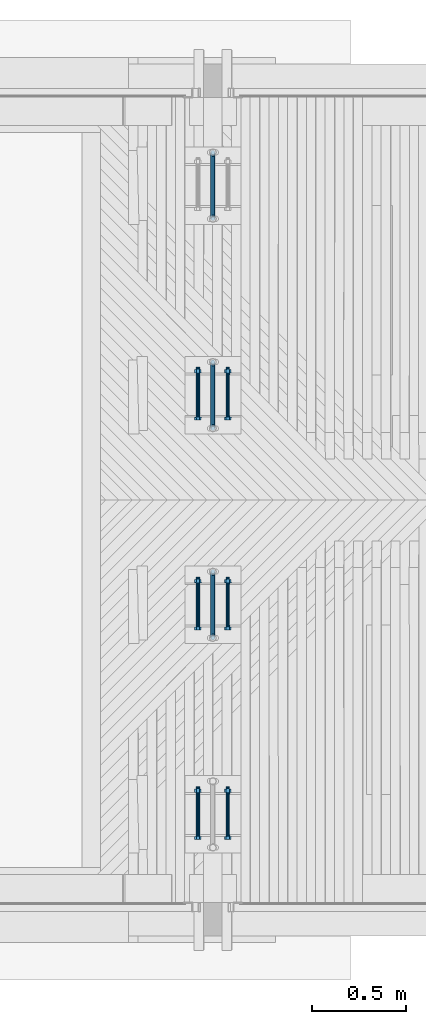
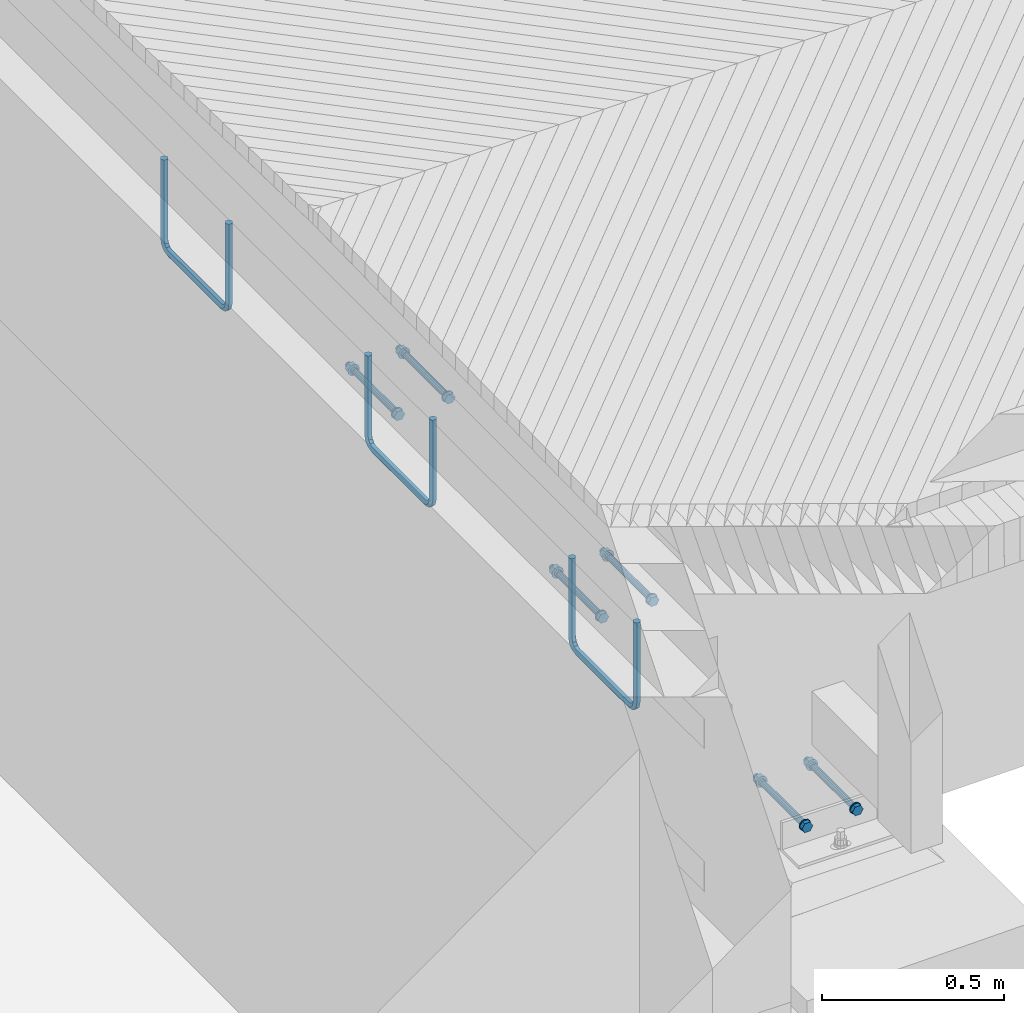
# One storey, part 2 of 65: 6 reinforcing bars, 3 mechanical fasteners.
"""IFC2X3 building model written with IfcOpenShell, lengths in millimetres."""

import ifcopenshell
import ifcopenshell.guid

model = None  # the IFC model being written
_history = None  # IfcOwnerHistory: only IFC2X3 demands one
_inside = {}  # id of a spatial element -> (the spatial element, [elements in it])
_under = {}  # id of a project, library or spatial element -> (it, [spatial elements below it])
_declared = {}  # id of a project -> (the project, [libraries it declares])
_typed = {}  # id of a type object -> (the type object, [elements of that type])
_made_of = {}  # id of a material, layer set ... -> (it, [elements and type objects made of it])


def new_model(schema):
    """Start an empty IFC model of exactly this schema.

    Asked for "IFC4X3", IfcOpenShell would pick the latest addendum, in which some entities
    have other attributes; the version numbers below select the first issue.
    IFC2X3 requires an IfcOwnerHistory on every rooted entity: one is made here for all.
    """
    global model, _history
    if schema == "IFC4X3":
        model = ifcopenshell.file(schema_version=(4, 3, 0, 0))
    else:
        model = ifcopenshell.file(schema=schema)
    _inside.clear()
    _under.clear()
    _declared.clear()
    _typed.clear()
    _made_of.clear()
    _history = None
    if model.schema == "IFC2X3":
        org = make("IfcOrganization", Name="unknown")
        user = make(
            "IfcPersonAndOrganization",
            ThePerson=make("IfcPerson", FamilyName="unknown"),
            TheOrganization=org,
        )
        app = make(
            "IfcApplication",
            ApplicationDeveloper=org,
            Version="unknown",
            ApplicationFullName="unknown",
            ApplicationIdentifier="unknown",
        )
        _history = make(
            "IfcOwnerHistory",
            OwningUser=user,
            OwningApplication=app,
            ChangeAction="ADDED",
            CreationDate=0,
        )
    return model


def make(cls, **values):
    """One entity of the class cls with the attributes given. An attribute that is None is left unset."""
    return model.create_entity(
        cls, **{name: value for name, value in values.items() if value is not None}
    )


def rooted(cls, **values):
    """An entity with a GlobalId (a new one), such as an element, a storey or a relation."""
    return make(cls, GlobalId=ifcopenshell.guid.new(), OwnerHistory=_history, **values)


def si_unit(unit_type, name, prefix=None):
    """IfcSIUnit, for example si_unit("LENGTHUNIT", "METRE", prefix="MILLI")."""
    return make("IfcSIUnit", UnitType=unit_type, Prefix=prefix, Name=name)


def assignment(units):
    """IfcUnitAssignment: the units of a project."""
    return None if units is None else make("IfcUnitAssignment", Units=units)


def point(xyz):
    """IfcCartesianPoint."""
    return None if xyz is None else make("IfcCartesianPoint", Coordinates=xyz)


def direction(xyz):
    """IfcDirection."""
    return None if xyz is None else make("IfcDirection", DirectionRatios=xyz)


def frame(location, z_axis=None, x_axis=None):
    """IfcAxis2Placement3D, a coordinate frame: its origin and axes. An axis left out is left unset."""
    return make(
        "IfcAxis2Placement3D",
        Location=point(location),
        Axis=direction(z_axis),
        RefDirection=direction(x_axis),
    )


def origin_with_axes():
    """The frame at (0, 0, 0) with the z axis (0, 0, 1) and the x axis (1, 0, 0) written out."""
    return frame((0.0, 0.0, 0.0), z_axis=(0.0, 0.0, 1.0), x_axis=(1.0, 0.0, 0.0))


def place(relative_to, where):
    """IfcLocalPlacement: puts the frame where relative to a parent placement (None: the world)."""
    return make(
        "IfcLocalPlacement", PlacementRelTo=relative_to, RelativePlacement=where
    )


def context(
    kind, dimensions, precision=None, world=None, true_north=None, identifier=None
):
    """IfcGeometricRepresentationContext, for example the 3D "Model" context."""
    return make(
        "IfcGeometricRepresentationContext",
        ContextIdentifier=identifier,
        ContextType=kind,
        CoordinateSpaceDimension=dimensions,
        Precision=precision,
        WorldCoordinateSystem=world,
        TrueNorth=true_north,
    )


def subcontext(parent, identifier, kind, view, scale=None):
    """IfcGeometricRepresentationSubContext, for example "Body" below "Model"."""
    return make(
        "IfcGeometricRepresentationSubContext",
        ContextIdentifier=identifier,
        ContextType=kind,
        ParentContext=parent,
        TargetScale=scale,
        TargetView=view,
    )


def project(units=None, contexts=None):
    """IfcProject with its units and contexts."""
    return rooted(
        "IfcProject",
        Name="project",
        RepresentationContexts=contexts,
        UnitsInContext=assignment(units),
    )


def spatial(cls, under=None, at=None, **own):
    """A site, building, storey or space (cls), placed at a placement, below another one or the project."""
    s = rooted(cls, ObjectPlacement=at, **own)
    if under is not None:
        _under.setdefault(under.id(), (under, []))[1].append(s)
    return s


def faces_of(points, faces, orient=None, outer=None):
    """IfcFace entities. A face is a list of loops; a loop is a list of indices into points, from 0.

    orient and outer hold one flag for each loop. By default every Orientation is true, the
    first loop of a face is its IfcFaceOuterBound and the others are IfcFaceBound.
    """
    made = []
    for i, loops in enumerate(faces):
        bounds = []
        for j, loop in enumerate(loops):
            is_outer = j == 0 if outer is None else outer[i][j]
            bounds.append(
                make(
                    "IfcFaceOuterBound" if is_outer else "IfcFaceBound",
                    Bound=make("IfcPolyLoop", Polygon=[points[k] for k in loop]),
                    Orientation=True if orient is None else orient[i][j],
                )
            )
        made.append(make("IfcFace", Bounds=bounds))
    return made


def faceted_brep(points, faces, orient=None, outer=None, voids=None):
    """IfcFacetedBrep: a solid bounded by flat faces; with voids (closed shells), ...WithVoids."""
    shared = [point(p) for p in points]
    hull = make("IfcClosedShell", CfsFaces=faces_of(shared, faces, orient, outer))
    if voids is None:
        return make("IfcFacetedBrep", Outer=hull)
    return make(
        "IfcFacetedBrepWithVoids",
        Outer=hull,
        Voids=[
            make(cls, CfsFaces=faces_of(shared, fs, o, b)) for cls, fs, o, b in voids
        ],
    )


def shape(context_of_items, identifier, shape_type, items):
    """IfcShapeRepresentation: the items that make up one representation, for example the "Body"."""
    return make(
        "IfcShapeRepresentation",
        ContextOfItems=context_of_items,
        RepresentationIdentifier=identifier,
        RepresentationType=shape_type,
        Items=items,
    )


def source(mapping_origin, context_of_items, identifier, shape_type, items):
    """IfcRepresentationMap: a shape defined once, which mapped items show again and again."""
    return make(
        "IfcRepresentationMap",
        MappingOrigin=mapping_origin,
        MappedRepresentation=shape(context_of_items, identifier, shape_type, items),
    )


def transform(
    local_origin,
    x_axis=None,
    y_axis=None,
    z_axis=None,
    scale=None,
    scale2=None,
    scale3=None,
    uniform=True,
):
    """IfcCartesianTransformationOperator3D, or its non-uniform kind. x_axis, y_axis, z_axis: its Axis1, 2, 3."""
    if uniform:
        return make(
            "IfcCartesianTransformationOperator3D",
            Axis1=direction(x_axis),
            Axis2=direction(y_axis),
            LocalOrigin=point(local_origin),
            Scale=scale,
            Axis3=direction(z_axis),
        )
    return make(
        "IfcCartesianTransformationOperator3DnonUniform",
        Axis1=direction(x_axis),
        Axis2=direction(y_axis),
        LocalOrigin=point(local_origin),
        Scale=scale,
        Axis3=direction(z_axis),
        Scale2=scale2,
        Scale3=scale3,
    )


def mapped(mapping_source, mapping_target):
    """IfcMappedItem: shows the shape of a source again, moved by a transform."""
    return make(
        "IfcMappedItem", MappingSource=mapping_source, MappingTarget=mapping_target
    )


def material(Name=None, Category=None):
    """IfcMaterial."""
    return make("IfcMaterial", Name=Name, Category=Category)


def made_of(thing, what):
    """Note that an element or type object is made of a material, layer set ...; save() writes the relation."""
    if what is not None:
        _made_of.setdefault(what.id(), (what, []))[1].append(thing)
    return thing


def type_object(cls, material=None, **own):
    """A type object (cls), such as IfcWallType, which elements share."""
    return made_of(rooted(cls, **own), material)


def element(
    cls,
    number,
    at=None,
    inside=None,
    cuts=None,
    type_object=None,
    material=None,
    context=None,
    identifier="Body",
    shape_type=None,
    held_by="IfcProductDefinitionShape",
    body=None,
    shapes=None,
    **own,
):
    """One element of the class cls, such as IfcWall. Its Tag is "e" and its number.

    at: its placement. inside: the storey or other place that contains it. cuts: it is an
    opening in that element (IfcRelVoidsElement). A single representation is given by context,
    identifier, shape_type and body (its items); several are given by shapes. held_by: the class
    of the entity that holds the representations. save() writes the other relations.
    """
    e = rooted(cls, Tag="e%d" % number, ObjectPlacement=at, **own)
    if body is not None:
        shapes = [shape(context, identifier, shape_type, body)]
    if shapes is not None:
        e.Representation = make(held_by, Representations=shapes)
    if inside is not None:
        _inside.setdefault(inside.id(), (inside, []))[1].append(e)
    if cuts is not None:
        rooted(
            "IfcRelVoidsElement", RelatingBuildingElement=cuts, RelatedOpeningElement=e
        )
    if type_object is not None:
        _typed.setdefault(type_object.id(), (type_object, []))[1].append(e)
    return made_of(e, material)


def aggregate(whole, parts):
    """IfcRelAggregates: a whole, such as a stair, and the parts it consists of."""
    return rooted("IfcRelAggregates", RelatingObject=whole, RelatedObjects=parts)


def save(model, path):
    """Write the relations noted so far, then the file.

    IfcRelAggregates (storeys below a building ...), IfcRelContainedInSpatialStructure (elements
    in a storey), IfcRelDefinesByType, IfcRelAssociatesMaterial and IfcRelDeclares: one each for
    every whole, place, type object, material and project.
    """
    for whole, parts in _under.values():
        aggregate(whole, parts)
    for where, things in _inside.values():
        rooted(
            "IfcRelContainedInSpatialStructure",
            RelatedElements=things,
            RelatingStructure=where,
        )
    for kind, things in _typed.values():
        rooted("IfcRelDefinesByType", RelatedObjects=things, RelatingType=kind)
    for what, things in _made_of.values():
        rooted("IfcRelAssociatesMaterial", RelatedObjects=things, RelatingMaterial=what)
    for by, libraries in _declared.values():
        rooted("IfcRelDeclares", RelatingContext=by, RelatedDefinitions=libraries)
    model.write(path)


model = new_model("IFC2X3")

# Units and contexts
model_context = context("Model", 3, precision=1e-05, world=origin_with_axes())
body_context = subcontext(model_context, "Body", "Model", "MODEL_VIEW")
ifc_project = project(units=[si_unit("LENGTHUNIT", "METRE", prefix="MILLI"), si_unit("AREAUNIT", "SQUARE_METRE"), si_unit("VOLUMEUNIT", "CUBIC_METRE"), si_unit("MASSUNIT", "GRAM", prefix="KILO"), si_unit("TIMEUNIT", "SECOND"), si_unit("PLANEANGLEUNIT", "RADIAN"), si_unit("SOLIDANGLEUNIT", "STERADIAN"), si_unit("THERMODYNAMICTEMPERATUREUNIT", "DEGREE_CELSIUS"), si_unit("LUMINOUSINTENSITYUNIT", "LUMEN")], contexts=[model_context])

# Site, building, storey
site_placement = place(None, origin_with_axes())
site = spatial("IfcSite", under=ifc_project, at=site_placement, Name="Undefined", CompositionType="ELEMENT")
building_placement = place(site_placement, origin_with_axes())
building = spatial("IfcBuilding", under=site, at=building_placement, Name="Undefined", CompositionType="ELEMENT")
storey_placement = place(building_placement, origin_with_axes())
storey = spatial("IfcBuildingStorey", under=building, at=storey_placement, Name="Undefined", CompositionType="ELEMENT", Elevation=0.0)

# Reinforcing bars
ifc_material_1 = material(Name="A500HW")
shared_shape_1 = source(origin_with_axes(), body_context, "Body", "Brep", [
    faceted_brep([(9.95929214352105, -5.74999999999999, -1.31778448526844e-16), (9.95929214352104, 5.75000000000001, -1.31778448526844e-16), (-4.46864767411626e-15, 11.5, 5.31556664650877e-32), (-9.95929214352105, 5.75, 1.31778448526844e-16), (-9.95929214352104, -5.75, 1.31778448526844e-16), (0.0, -11.5, 0.0), (-9.95929214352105, -5.75, -268.5), (-3.5527136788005e-15, -11.5, -268.5), (-9.95929214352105, 5.75, -268.5), (-8.02136135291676e-15, 11.5, -268.5), (9.95929214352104, 5.75000000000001, -268.5), (9.95929214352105, -5.74999999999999, -268.5), (-4.40480021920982, -5.75, -289.229646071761), (4.22019978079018, -11.5, -284.25), (-4.40480021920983, 5.75, -289.229646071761), (4.22019978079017, 11.5, -284.25), (12.8451997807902, 5.75000000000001, -279.27035392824), (12.8451997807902, -5.74999999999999, -279.27035392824), (10.7703539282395, -5.75, -304.40480021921), (15.75, -11.5, -295.77980021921), (10.7703539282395, 5.75, -304.40480021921), (15.75, 11.5, -295.77980021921), (20.7296460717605, 5.75000000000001, -287.15480021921), (20.7296460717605, -5.74999999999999, -287.15480021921), (31.5, -5.75, -309.959292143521), (31.5, -11.5, -300.0), (31.5, 5.75, -309.959292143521), (31.5, 11.5, -300.0), (31.5, 5.75000000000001, -290.040707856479), (31.5, -5.74999999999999, -290.040707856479), (323.5, -5.75, -309.959292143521), (323.5, -11.5, -300.0), (323.5, 5.75, -309.959292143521), (323.5, 11.5, -300.0), (323.5, 5.75000000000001, -290.040707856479), (323.5, -5.74999999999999, -290.040707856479), (344.229646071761, -5.75, -304.40480021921), (339.25, -11.5, -295.77980021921), (344.229646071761, 5.75, -304.40480021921), (339.25, 11.5, -295.77980021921), (334.270353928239, 5.75000000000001, -287.15480021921), (334.270353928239, -5.74999999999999, -287.15480021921), (359.40480021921, -5.75, -289.229646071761), (350.77980021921, -11.5, -284.25), (359.40480021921, 5.75, -289.229646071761), (350.77980021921, 11.5, -284.25), (342.15480021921, 5.75000000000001, -279.27035392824), (342.15480021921, -5.74999999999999, -279.27035392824), (364.959292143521, -5.75, -268.5), (355.0, -11.5, -268.5), (364.959292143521, 5.75, -268.5), (355.0, 11.5, -268.5), (345.040707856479, 5.75000000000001, -268.5), (345.040707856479, -5.74999999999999, -268.5), (364.959292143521, -5.75, 0.0), (355.0, -11.5, 0.0), (364.959292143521, 5.75, 0.0), (355.0, 11.5, 0.0), (345.040707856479, 5.75000000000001, 0.0), (345.040707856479, -5.74999999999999, 0.0)], [[[0, 1, 2, 3, 4, 5]], [[5, 4, 6, 7]], [[4, 3, 8, 6]], [[3, 2, 9, 8]], [[2, 1, 10, 9]], [[1, 0, 11, 10]], [[0, 5, 7, 11]], [[7, 6, 12, 13]], [[6, 8, 14, 12]], [[8, 9, 15, 14]], [[9, 10, 16, 15]], [[10, 11, 17, 16]], [[11, 7, 13, 17]], [[13, 12, 18, 19]], [[12, 14, 20, 18]], [[14, 15, 21, 20]], [[15, 16, 22, 21]], [[16, 17, 23, 22]], [[17, 13, 19, 23]], [[19, 18, 24, 25]], [[18, 20, 26, 24]], [[20, 21, 27, 26]], [[21, 22, 28, 27]], [[22, 23, 29, 28]], [[23, 19, 25, 29]], [[25, 24, 30, 31]], [[24, 26, 32, 30]], [[26, 27, 33, 32]], [[27, 28, 34, 33]], [[28, 29, 35, 34]], [[29, 25, 31, 35]], [[31, 30, 36, 37]], [[30, 32, 38, 36]], [[32, 33, 39, 38]], [[33, 34, 40, 39]], [[34, 35, 41, 40]], [[35, 31, 37, 41]], [[37, 36, 42, 43]], [[36, 38, 44, 42]], [[38, 39, 45, 44]], [[39, 40, 46, 45]], [[40, 41, 47, 46]], [[41, 37, 43, 47]], [[43, 42, 48, 49]], [[42, 44, 50, 48]], [[44, 45, 51, 50]], [[45, 46, 52, 51]], [[46, 47, 53, 52]], [[47, 43, 49, 53]], [[49, 48, 54, 55]], [[48, 50, 56, 54]], [[50, 51, 57, 56]], [[51, 52, 58, 57]], [[52, 53, 59, 58]], [[53, 49, 55, 59]], [[55, 54, 56, 57, 58, 59]]]),
])
for number, where, z_axis, x_axis, name in (
    (1, (0.0, 23102.5000000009, 1637.32999999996), (0.0, 0.0, 1.0), (0.0, -1.0, 0.0), "REBAR"),
    (2, (0.0, 24222.5000000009, 1615.32999999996), (0.0, 0.0, 1.0), (0.0, -1.0, 0.0), "REBAR"),
    (3, (0.0, 21627.5, 1637.32999999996), (0.0, 0.0, 1.0), (0.0, 1.0, 0.0), "REBAR"),
    (4, (0.0, 21627.5, 1637.32999999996), (0.0, 0.0, 1.0), (0.0, 1.0, 0.0), "REBAR"),
    (5, (0.0, 24222.5000000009, 1615.32999999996), (0.0, 0.0, 1.0), (0.0, -1.0, 0.0), "REBAR"),
    (6, (0.0, 23102.5000000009, 1637.32999999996), (0.0, 0.0, 1.0), (0.0, -1.0, 0.0), "REBAR"),
):
    element("IfcReinforcingBar", number, at=place(storey_placement, frame(where, z_axis=z_axis, x_axis=x_axis)), inside=storey, material=ifc_material_1, Name=name, BarRole="NOTDEFINED", CrossSectionArea=0.0, NominalDiameter=23.0, context=body_context, shape_type="MappedRepresentation", body=[
        mapped(shared_shape_1, transform((0.0, 0.0, 420.0))),
    ])

# Mechanical fasteners
ifc_material_2 = material(Name="Undefined")
mechanical_fastener_type = type_object("IfcMechanicalFastenerType", Name="Bolt assembly")
shared_shape_2 = source(origin_with_axes(), body_context, "Body", "Brep", [
    faceted_brep([(17.3205080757, -238.7, 0.0), (8.66025403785, -238.7, 15.0000000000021), (-8.66025403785, -238.7, 15.0000000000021), (-17.3205080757, -238.7, 0.0), (-8.66025403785, -238.7, -15.0000000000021), (8.66025403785, -238.7, -15.0000000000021), (8.66025403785, -225.5, -15.0000000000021), (-8.66025403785, -225.5, -15.0000000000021), (-17.3205080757, -225.5, 0.0), (-8.66025403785, -225.5, 15.0000000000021), (8.66025403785, -225.5, 15.0000000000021), (17.3205080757, -225.5, 0.0), (10.0, -225.5, 0.0), (8.66025403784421, -225.5, 5.0000000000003), (4.9999999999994, -225.5, 8.66025403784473), (-1.03633598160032e-12, -225.5, 10.0), (-5.00000000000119, -225.5, 8.6602540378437), (-8.66025403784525, -225.5, 4.99999999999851), (-10.0, -225.5, -2.07267196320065e-12), (-8.66025403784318, -225.5, -5.00000000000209), (-4.99999999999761, -225.5, -8.66025403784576), (3.09790571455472e-12, -225.5, -10.0), (5.00000000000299, -225.5, -8.66025403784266), (8.66025403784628, -225.5, -4.99999999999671), (8.66025403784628, 44.5, -4.99999999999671), (5.00000000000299, 44.5, -8.66025403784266), (3.09790571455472e-12, 44.5, -10.0), (-4.99999999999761, 44.5, -8.66025403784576), (-8.66025403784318, 44.5, -5.00000000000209), (-10.0, 44.5, -2.07267196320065e-12), (-8.66025403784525, 44.5, 4.99999999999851), (-5.00000000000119, 44.5, 8.6602540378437), (-1.03633598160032e-12, 44.5, 10.0), (4.9999999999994, 44.5, 8.66025403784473), (8.66025403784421, 44.5, 5.0000000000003), (10.0, 44.5, 0.0), (18.5, -225.5, 0.0), (16.0214699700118, -225.5, 9.25000000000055), (9.2499999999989, -225.5, 16.0214699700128), (-1.9172215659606e-12, -225.5, 18.5), (-9.25000000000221, -225.5, 16.0214699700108), (-16.0214699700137, -225.5, 9.24999999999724), (-18.5, -225.5, -3.83444313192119e-12), (-16.0214699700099, -225.5, -9.25000000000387), (-9.24999999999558, -225.5, -16.0214699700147), (5.73112557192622e-12, -225.5, -18.5), (9.25000000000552, -225.5, -16.0214699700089), (16.0214699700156, -225.5, -9.24999999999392), (16.0214699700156, -222.5, -9.24999999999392), (9.25000000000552, -222.5, -16.0214699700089), (5.73112557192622e-12, -222.5, -18.5), (-9.24999999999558, -222.5, -16.0214699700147), (-16.0214699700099, -222.5, -9.25000000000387), (-18.5, -222.5, -3.83444313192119e-12), (-16.0214699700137, -222.5, 9.24999999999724), (-9.25000000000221, -222.5, 16.0214699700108), (-1.9172215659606e-12, -222.5, 18.5), (9.2499999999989, -222.5, 16.0214699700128), (16.0214699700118, -222.5, 9.25000000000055), (18.5, -222.5, 0.0), (18.5, 12.5, 0.0), (16.0214699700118, 12.5, 9.25000000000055), (9.2499999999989, 12.5, 16.0214699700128), (-1.9172215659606e-12, 12.5, 18.5), (-9.25000000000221, 12.5, 16.0214699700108), (-16.0214699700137, 12.5, 9.24999999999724), (-18.5, 12.5, -3.83444313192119e-12), (-16.0214699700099, 12.5, -9.25000000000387), (-9.24999999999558, 12.5, -16.0214699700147), (5.73112557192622e-12, 12.5, -18.5), (9.25000000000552, 12.5, -16.0214699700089), (16.0214699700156, 12.5, -9.24999999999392), (16.0214699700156, 15.5, -9.24999999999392), (9.25000000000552, 15.5, -16.0214699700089), (5.73112557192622e-12, 15.5, -18.5), (-9.24999999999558, 15.5, -16.0214699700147), (-16.0214699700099, 15.5, -9.25000000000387), (-18.5, 15.5, -3.83444313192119e-12), (-16.0214699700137, 15.5, 9.24999999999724), (-9.25000000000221, 15.5, 16.0214699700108), (-1.9172215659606e-12, 15.5, 18.5), (9.2499999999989, 15.5, 16.0214699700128), (16.0214699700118, 15.5, 9.25000000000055), (18.5, 15.5, 0.0), (17.3205080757, 15.5, 0.0), (8.66025403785, 15.5, 15.0000000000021), (-8.66025403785, 15.5, 15.0000000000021), (-17.3205080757, 15.5, 0.0), (-8.66025403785, 15.5, -15.0000000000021), (8.66025403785, 15.5, -15.0000000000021), (8.66025403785, 31.5, -15.0000000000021), (-8.66025403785, 31.5, -15.0000000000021), (-17.3205080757, 31.5, 0.0), (-8.66025403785, 31.5, 15.0000000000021), (8.66025403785, 31.5, 15.0000000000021), (17.3205080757, 31.5, 0.0)], [[[0, 1, 2, 3, 4, 5]], [[6, 7, 8, 9, 10, 11]], [[0, 11, 10, 1]], [[1, 10, 9, 2]], [[2, 9, 8, 3]], [[3, 8, 7, 4]], [[4, 7, 6, 5]], [[5, 6, 11, 0]], [[12, 13, 14, 15, 16, 17, 18, 19, 20, 21, 22, 23]], [[24, 25, 26, 27, 28, 29, 30, 31, 32, 33, 34, 35]], [[12, 35, 34, 13]], [[13, 34, 33, 14]], [[14, 33, 32, 15]], [[15, 32, 31, 16]], [[16, 31, 30, 17]], [[17, 30, 29, 18]], [[18, 29, 28, 19]], [[19, 28, 27, 20]], [[20, 27, 26, 21]], [[21, 26, 25, 22]], [[22, 25, 24, 23]], [[23, 24, 35, 12]], [[36, 37, 38, 39, 40, 41, 42, 43, 44, 45, 46, 47]], [[48, 49, 50, 51, 52, 53, 54, 55, 56, 57, 58, 59]], [[36, 59, 58, 37]], [[37, 58, 57, 38]], [[38, 57, 56, 39]], [[39, 56, 55, 40]], [[40, 55, 54, 41]], [[41, 54, 53, 42]], [[42, 53, 52, 43]], [[43, 52, 51, 44]], [[44, 51, 50, 45]], [[45, 50, 49, 46]], [[46, 49, 48, 47]], [[47, 48, 59, 36]], [[60, 61, 62, 63, 64, 65, 66, 67, 68, 69, 70, 71]], [[72, 73, 74, 75, 76, 77, 78, 79, 80, 81, 82, 83]], [[60, 83, 82, 61]], [[61, 82, 81, 62]], [[62, 81, 80, 63]], [[63, 80, 79, 64]], [[64, 79, 78, 65]], [[65, 78, 77, 66]], [[66, 77, 76, 67]], [[67, 76, 75, 68]], [[68, 75, 74, 69]], [[69, 74, 73, 70]], [[70, 73, 72, 71]], [[71, 72, 83, 60]], [[84, 85, 86, 87, 88, 89]], [[90, 91, 92, 93, 94, 95]], [[84, 95, 94, 85]], [[85, 94, 93, 86]], [[86, 93, 92, 87]], [[87, 92, 91, 88]], [[88, 91, 90, 89]], [[89, 90, 95, 84]]]),
    faceted_brep([(11.0, -222.4, 0.0), (9.52627944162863, -222.4, 5.50000000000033), (5.49999999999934, -222.4, 9.5262794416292), (-1.13996957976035e-12, -222.4, 11.0), (-5.50000000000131, -222.4, 9.52627944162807), (-9.52627944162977, -222.4, 5.49999999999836), (-11.0, -222.4, -2.27993915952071e-12), (-9.5262794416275, -222.4, -5.5000000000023), (-5.49999999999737, -222.4, -9.52627944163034), (3.40769628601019e-12, -222.4, -11.0), (5.50000000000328, -222.4, -9.52627944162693), (9.52627944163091, -222.4, -5.49999999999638), (9.52627944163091, -212.4, -5.49999999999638), (5.50000000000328, -212.4, -9.52627944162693), (3.40769628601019e-12, -212.4, -11.0), (-5.49999999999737, -212.4, -9.52627944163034), (-9.5262794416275, -212.4, -5.5000000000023), (-11.0, -212.4, -2.27993915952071e-12), (-9.52627944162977, -212.4, 5.49999999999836), (-5.50000000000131, -212.4, 9.52627944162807), (-1.13996957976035e-12, -212.4, 11.0), (5.49999999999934, -212.4, 9.5262794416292), (9.52627944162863, -212.4, 5.50000000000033), (11.0, -212.4, 0.0), (11.0, 2.4, 0.0), (9.52627944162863, 2.4, 5.50000000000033), (5.49999999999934, 2.4, 9.5262794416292), (-1.13996957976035e-12, 2.4, 11.0), (-5.50000000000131, 2.4, 9.52627944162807), (-9.52627944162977, 2.4, 5.49999999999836), (-11.0, 2.4, -2.27993915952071e-12), (-9.5262794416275, 2.4, -5.5000000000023), (-5.49999999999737, 2.4, -9.52627944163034), (3.40769628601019e-12, 2.4, -11.0), (5.50000000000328, 2.4, -9.52627944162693), (9.52627944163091, 2.4, -5.49999999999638), (9.52627944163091, 12.5, -5.49999999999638), (5.50000000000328, 12.5, -9.52627944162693), (3.40769628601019e-12, 12.5, -11.0), (-5.49999999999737, 12.5, -9.52627944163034), (-9.5262794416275, 12.5, -5.5000000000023), (-11.0, 12.5, -2.27993915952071e-12), (-9.52627944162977, 12.5, 5.49999999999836), (-5.50000000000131, 12.5, 9.52627944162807), (-1.13996957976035e-12, 12.5, 11.0), (5.49999999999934, 12.5, 9.5262794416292), (9.52627944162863, 12.5, 5.50000000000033), (11.0, 12.5, 0.0)], [[[0, 1, 2, 3, 4, 5, 6, 7, 8, 9, 10, 11]], [[12, 13, 14, 15, 16, 17, 18, 19, 20, 21, 22, 23]], [[0, 23, 22, 1]], [[1, 22, 21, 2]], [[2, 21, 20, 3]], [[3, 20, 19, 4]], [[4, 19, 18, 5]], [[5, 18, 17, 6]], [[6, 17, 16, 7]], [[7, 16, 15, 8]], [[8, 15, 14, 9]], [[9, 14, 13, 10]], [[10, 13, 12, 11]], [[11, 12, 23, 0]], [[24, 25, 26, 27, 28, 29, 30, 31, 32, 33, 34, 35]], [[36, 37, 38, 39, 40, 41, 42, 43, 44, 45, 46, 47]], [[24, 47, 46, 25]], [[25, 46, 45, 26]], [[26, 45, 44, 27]], [[27, 44, 43, 28]], [[28, 43, 42, 29]], [[29, 42, 41, 30]], [[30, 41, 40, 31]], [[31, 40, 39, 32]], [[32, 39, 38, 33]], [[33, 38, 37, 34]], [[34, 37, 36, 35]], [[35, 36, 47, 24]]]),
])
mechanical_fastener_placement = place(storey_placement, frame((-80.0, 23030.0000000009, 2067.33), z_axis=(0.0, 0.0, 1.0), x_axis=(1.0, 0.0, 0.0)))
element("IfcMechanicalFastener", 7, at=mechanical_fastener_placement, inside=storey, type_object=mechanical_fastener_type, material=ifc_material_2, Name="Bolt assembly", NominalDiameter=20.0, NominalLength=270.0, context=body_context, shape_type="MappedRepresentation", body=[
    mapped(shared_shape_2, transform((0.0, 0.0, 0.0))),
    mapped(shared_shape_2, transform((160.0, 0.0, 0.0))),
])
shared_shape_3 = source(origin_with_axes(), body_context, "Body", "Brep", [
    faceted_brep([(17.3205080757, -28.7, 0.0), (8.66025403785, -28.7, 15.0000000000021), (-8.66025403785, -28.7, 15.0000000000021), (-17.3205080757, -28.7, 0.0), (-8.66025403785, -28.7, -15.0000000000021), (8.66025403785, -28.7, -15.0000000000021), (8.66025403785, -15.5, -15.0000000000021), (-8.66025403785, -15.5, -15.0000000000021), (-17.3205080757, -15.5, 0.0), (-8.66025403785, -15.5, 15.0000000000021), (8.66025403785, -15.5, 15.0000000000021), (17.3205080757, -15.5, 0.0), (10.0, -15.5, 0.0), (8.66025403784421, -15.5, 5.0000000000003), (4.9999999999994, -15.5, 8.66025403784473), (-1.03633598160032e-12, -15.5, 10.0), (-5.00000000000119, -15.5, 8.6602540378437), (-8.66025403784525, -15.5, 4.99999999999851), (-10.0, -15.5, -2.07267196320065e-12), (-8.66025403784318, -15.5, -5.00000000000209), (-4.99999999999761, -15.5, -8.66025403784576), (3.09790571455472e-12, -15.5, -10.0), (5.00000000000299, -15.5, -8.66025403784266), (8.66025403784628, -15.5, -4.99999999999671), (8.66025403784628, 254.5, -4.99999999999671), (5.00000000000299, 254.5, -8.66025403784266), (3.09790571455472e-12, 254.5, -10.0), (-4.99999999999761, 254.5, -8.66025403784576), (-8.66025403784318, 254.5, -5.00000000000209), (-10.0, 254.5, -2.07267196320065e-12), (-8.66025403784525, 254.5, 4.99999999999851), (-5.00000000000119, 254.5, 8.6602540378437), (-1.03633598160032e-12, 254.5, 10.0), (4.9999999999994, 254.5, 8.66025403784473), (8.66025403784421, 254.5, 5.0000000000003), (10.0, 254.5, 0.0), (18.5, -15.5, 0.0), (16.0214699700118, -15.5, 9.25000000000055), (9.2499999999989, -15.5, 16.0214699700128), (-1.9172215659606e-12, -15.5, 18.5), (-9.25000000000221, -15.5, 16.0214699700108), (-16.0214699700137, -15.5, 9.24999999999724), (-18.5, -15.5, -3.83444313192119e-12), (-16.0214699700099, -15.5, -9.25000000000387), (-9.24999999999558, -15.5, -16.0214699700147), (5.73112557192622e-12, -15.5, -18.5), (9.25000000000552, -15.5, -16.0214699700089), (16.0214699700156, -15.5, -9.24999999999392), (16.0214699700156, -12.5, -9.24999999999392), (9.25000000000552, -12.5, -16.0214699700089), (5.73112557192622e-12, -12.5, -18.5), (-9.24999999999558, -12.5, -16.0214699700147), (-16.0214699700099, -12.5, -9.25000000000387), (-18.5, -12.5, -3.83444313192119e-12), (-16.0214699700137, -12.5, 9.24999999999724), (-9.25000000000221, -12.5, 16.0214699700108), (-1.9172215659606e-12, -12.5, 18.5), (9.2499999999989, -12.5, 16.0214699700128), (16.0214699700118, -12.5, 9.25000000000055), (18.5, -12.5, 0.0), (18.5, 222.5, 0.0), (16.0214699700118, 222.5, 9.25000000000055), (9.2499999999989, 222.5, 16.0214699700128), (-1.9172215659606e-12, 222.5, 18.5), (-9.25000000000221, 222.5, 16.0214699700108), (-16.0214699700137, 222.5, 9.24999999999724), (-18.5, 222.5, -3.83444313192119e-12), (-16.0214699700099, 222.5, -9.25000000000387), (-9.24999999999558, 222.5, -16.0214699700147), (5.73112557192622e-12, 222.5, -18.5), (9.25000000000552, 222.5, -16.0214699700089), (16.0214699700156, 222.5, -9.24999999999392), (16.0214699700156, 225.5, -9.24999999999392), (9.25000000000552, 225.5, -16.0214699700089), (5.73112557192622e-12, 225.5, -18.5), (-9.24999999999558, 225.5, -16.0214699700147), (-16.0214699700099, 225.5, -9.25000000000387), (-18.5, 225.5, -3.83444313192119e-12), (-16.0214699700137, 225.5, 9.24999999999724), (-9.25000000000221, 225.5, 16.0214699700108), (-1.9172215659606e-12, 225.5, 18.5), (9.2499999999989, 225.5, 16.0214699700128), (16.0214699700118, 225.5, 9.25000000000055), (18.5, 225.5, 0.0), (17.3205080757, 225.5, 0.0), (8.66025403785, 225.5, 15.0000000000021), (-8.66025403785, 225.5, 15.0000000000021), (-17.3205080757, 225.5, 0.0), (-8.66025403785, 225.5, -15.0000000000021), (8.66025403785, 225.5, -15.0000000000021), (8.66025403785, 241.5, -15.0000000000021), (-8.66025403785, 241.5, -15.0000000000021), (-17.3205080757, 241.5, 0.0), (-8.66025403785, 241.5, 15.0000000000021), (8.66025403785, 241.5, 15.0000000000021), (17.3205080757, 241.5, 0.0)], [[[0, 1, 2, 3, 4, 5]], [[6, 7, 8, 9, 10, 11]], [[0, 11, 10, 1]], [[1, 10, 9, 2]], [[2, 9, 8, 3]], [[3, 8, 7, 4]], [[4, 7, 6, 5]], [[5, 6, 11, 0]], [[12, 13, 14, 15, 16, 17, 18, 19, 20, 21, 22, 23]], [[24, 25, 26, 27, 28, 29, 30, 31, 32, 33, 34, 35]], [[12, 35, 34, 13]], [[13, 34, 33, 14]], [[14, 33, 32, 15]], [[15, 32, 31, 16]], [[16, 31, 30, 17]], [[17, 30, 29, 18]], [[18, 29, 28, 19]], [[19, 28, 27, 20]], [[20, 27, 26, 21]], [[21, 26, 25, 22]], [[22, 25, 24, 23]], [[23, 24, 35, 12]], [[36, 37, 38, 39, 40, 41, 42, 43, 44, 45, 46, 47]], [[48, 49, 50, 51, 52, 53, 54, 55, 56, 57, 58, 59]], [[36, 59, 58, 37]], [[37, 58, 57, 38]], [[38, 57, 56, 39]], [[39, 56, 55, 40]], [[40, 55, 54, 41]], [[41, 54, 53, 42]], [[42, 53, 52, 43]], [[43, 52, 51, 44]], [[44, 51, 50, 45]], [[45, 50, 49, 46]], [[46, 49, 48, 47]], [[47, 48, 59, 36]], [[60, 61, 62, 63, 64, 65, 66, 67, 68, 69, 70, 71]], [[72, 73, 74, 75, 76, 77, 78, 79, 80, 81, 82, 83]], [[60, 83, 82, 61]], [[61, 82, 81, 62]], [[62, 81, 80, 63]], [[63, 80, 79, 64]], [[64, 79, 78, 65]], [[65, 78, 77, 66]], [[66, 77, 76, 67]], [[67, 76, 75, 68]], [[68, 75, 74, 69]], [[69, 74, 73, 70]], [[70, 73, 72, 71]], [[71, 72, 83, 60]], [[84, 85, 86, 87, 88, 89]], [[90, 91, 92, 93, 94, 95]], [[84, 95, 94, 85]], [[85, 94, 93, 86]], [[86, 93, 92, 87]], [[87, 92, 91, 88]], [[88, 91, 90, 89]], [[89, 90, 95, 84]]]),
    faceted_brep([(11.0, -12.4, 0.0), (9.52627944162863, -12.4, 5.50000000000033), (5.49999999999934, -12.4, 9.5262794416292), (-1.13996957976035e-12, -12.4, 11.0), (-5.50000000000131, -12.4, 9.52627944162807), (-9.52627944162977, -12.4, 5.49999999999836), (-11.0, -12.4, -2.27993915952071e-12), (-9.5262794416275, -12.4, -5.5000000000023), (-5.49999999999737, -12.4, -9.52627944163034), (3.40769628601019e-12, -12.4, -11.0), (5.50000000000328, -12.4, -9.52627944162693), (9.52627944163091, -12.4, -5.49999999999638), (9.52627944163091, -2.4, -5.49999999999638), (5.50000000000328, -2.4, -9.52627944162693), (3.40769628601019e-12, -2.4, -11.0), (-5.49999999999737, -2.4, -9.52627944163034), (-9.5262794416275, -2.4, -5.5000000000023), (-11.0, -2.4, -2.27993915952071e-12), (-9.52627944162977, -2.4, 5.49999999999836), (-5.50000000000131, -2.4, 9.52627944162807), (-1.13996957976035e-12, -2.4, 11.0), (5.49999999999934, -2.4, 9.5262794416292), (9.52627944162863, -2.4, 5.50000000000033), (11.0, -2.4, 0.0), (11.0, 212.4, 0.0), (9.52627944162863, 212.4, 5.50000000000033), (5.49999999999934, 212.4, 9.5262794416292), (-1.13996957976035e-12, 212.4, 11.0), (-5.50000000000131, 212.4, 9.52627944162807), (-9.52627944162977, 212.4, 5.49999999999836), (-11.0, 212.4, -2.27993915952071e-12), (-9.5262794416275, 212.4, -5.5000000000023), (-5.49999999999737, 212.4, -9.52627944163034), (3.40769628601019e-12, 212.4, -11.0), (5.50000000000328, 212.4, -9.52627944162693), (9.52627944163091, 212.4, -5.49999999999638), (9.52627944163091, 222.5, -5.49999999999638), (5.50000000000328, 222.5, -9.52627944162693), (3.40769628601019e-12, 222.5, -11.0), (-5.49999999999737, 222.5, -9.52627944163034), (-9.5262794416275, 222.5, -5.5000000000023), (-11.0, 222.5, -2.27993915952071e-12), (-9.52627944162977, 222.5, 5.49999999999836), (-5.50000000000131, 222.5, 9.52627944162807), (-1.13996957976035e-12, 222.5, 11.0), (5.49999999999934, 222.5, 9.5262794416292), (9.52627944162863, 222.5, 5.50000000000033), (11.0, 222.5, 0.0)], [[[0, 1, 2, 3, 4, 5, 6, 7, 8, 9, 10, 11]], [[12, 13, 14, 15, 16, 17, 18, 19, 20, 21, 22, 23]], [[0, 23, 22, 1]], [[1, 22, 21, 2]], [[2, 21, 20, 3]], [[3, 20, 19, 4]], [[4, 19, 18, 5]], [[5, 18, 17, 6]], [[6, 17, 16, 7]], [[7, 16, 15, 8]], [[8, 15, 14, 9]], [[9, 14, 13, 10]], [[10, 13, 12, 11]], [[11, 12, 23, 0]], [[24, 25, 26, 27, 28, 29, 30, 31, 32, 33, 34, 35]], [[36, 37, 38, 39, 40, 41, 42, 43, 44, 45, 46, 47]], [[24, 47, 46, 25]], [[25, 46, 45, 26]], [[26, 45, 44, 27]], [[27, 44, 43, 28]], [[28, 43, 42, 29]], [[29, 42, 41, 30]], [[30, 41, 40, 31]], [[31, 40, 39, 32]], [[32, 39, 38, 33]], [[33, 38, 37, 34]], [[34, 37, 36, 35]], [[35, 36, 47, 24]]]),
])
for number, where, z_axis, x_axis, name in (
    (8, (-80.0, 21700.0, 2067.33), (0.0, 0.0, 1.0), (1.0, 0.0, 0.0), "Bolt assembly"),
    (9, (-80.0, 20580.0, 2045.33), (0.0, 0.0, 1.0), (1.0, 0.0, 0.0), "Bolt assembly"),
):
    element("IfcMechanicalFastener", number, at=place(storey_placement, frame(where, z_axis=z_axis, x_axis=x_axis)), inside=storey, type_object=mechanical_fastener_type, material=ifc_material_2, Name=name, NominalDiameter=20.0, NominalLength=270.0, context=body_context, shape_type="MappedRepresentation", body=[
        mapped(shared_shape_3, transform((0.0, 0.0, 0.0))),
        mapped(shared_shape_3, transform((160.0, 0.0, 0.0))),
    ])

save(model, "model.ifc")
